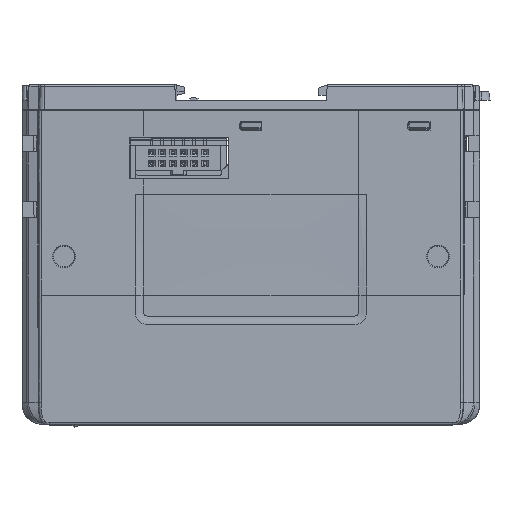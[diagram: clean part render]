
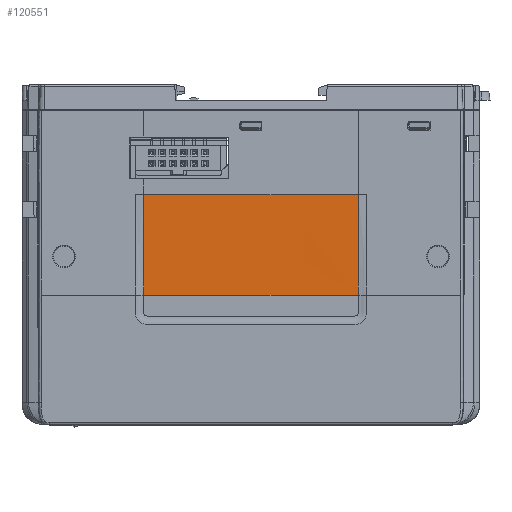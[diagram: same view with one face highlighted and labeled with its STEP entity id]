
A CAD part, top view. The second image highlights one B-rep face of the part: STEP entity #120551.
In plain terms, the highlighted free-form (B-spline) face has degree [3, 3] with [7, 4] control points.
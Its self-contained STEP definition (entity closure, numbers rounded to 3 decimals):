
#1477 = CARTESIAN_POINT ( 'NONE',  ( -25.537, -39.932, 13.2 ) ) ;
#1936 = EDGE_CURVE ( 'NONE', #51242, #108618, #122612, .T. ) ;
#5993 = CARTESIAN_POINT ( 'NONE',  ( -12.768, -35.945, 13.2 ) ) ;
#6639 = CARTESIAN_POINT ( 'NONE',  ( 21.28, -27.973, 13.5 ) ) ;
#10314 = EDGE_CURVE ( 'NONE', #51242, #16847, #111965, .T. ) ;
#11010 = B_SPLINE_CURVE_WITH_KNOTS ( 'NONE', 3,
 ( #32491, #73496, #114461, #22413 ),
 .UNSPECIFIED., .F., .F.,
 ( 4, 4 ),
 ( 0., 1. ),
 .UNSPECIFIED. ) ;
#16103 = CARTESIAN_POINT ( 'NONE',  ( -21.28, -27.973, 13.5 ) ) ;
#16753 = CARTESIAN_POINT ( 'NONE',  ( 12.768, -20., 13.5 ) ) ;
#16847 = VERTEX_POINT ( 'NONE', #70844 ) ;
#19955 = CARTESIAN_POINT ( 'NONE',  ( 0., -43.918, 13.2 ) ) ;
#21808 = ORIENTED_EDGE ( 'NONE', *, *, #10314, .T. ) ;
#22413 = CARTESIAN_POINT ( 'NONE',  ( 25.537, -20., 13.5 ) ) ;
#26168 = CARTESIAN_POINT ( 'NONE',  ( -25.537, -20., 13.5 ) ) ;
#26834 = CARTESIAN_POINT ( 'NONE',  ( 12.768, -43.918, 13.2 ) ) ;
#27693 = ORIENTED_EDGE ( 'NONE', *, *, #72353, .F. ) ;
#28306 = ORIENTED_EDGE ( 'NONE', *, *, #1936, .F. ) ;
#32491 = CARTESIAN_POINT ( 'NONE',  ( 25.537, -43.918, 13.2 ) ) ;
#36874 = CARTESIAN_POINT ( 'NONE',  ( 0., -35.945, 13.2 ) ) ;
#37545 = CARTESIAN_POINT ( 'NONE',  ( 25.537, -27.973, 13.5 ) ) ;
#39693 = LINE ( 'NONE', #80709, #104269 ) ;
#41626 = EDGE_LOOP ( 'NONE', ( #21808, #127358, #27693, #28306 ) ) ;
#42437 = CARTESIAN_POINT ( 'NONE',  ( -25.537, -31.959, 13.35 ) ) ;
#46964 = CARTESIAN_POINT ( 'NONE',  ( -12.768, -27.973, 13.5 ) ) ;
#47595 = CARTESIAN_POINT ( 'NONE',  ( 21.28, -20., 13.5 ) ) ;
#51242 = VERTEX_POINT ( 'NONE', #82532 ) ;
#55695 = FACE_OUTER_BOUND ( 'NONE', #41626, .T. ) ;
#57022 = CARTESIAN_POINT ( 'NONE',  ( -21.28, -20., 13.5 ) ) ;
#57689 = CARTESIAN_POINT ( 'NONE',  ( 21.28, -43.918, 13.2 ) ) ;
#58887 = EDGE_CURVE ( 'NONE', #16847, #103662, #11010, .T. ) ;
#60930 = DIRECTION ( 'NONE',  ( 1., 0., 0. ) ) ;
#62240 = CARTESIAN_POINT ( 'NONE',  ( -25.537, -20., 13.5 ) ) ;
#67101 = CARTESIAN_POINT ( 'NONE',  ( -21.28, -43.918, 13.2 ) ) ;
#67773 = CARTESIAN_POINT ( 'NONE',  ( 12.768, -35.945, 13.2 ) ) ;
#70844 = CARTESIAN_POINT ( 'NONE',  ( 25.537, -43.918, 13.2 ) ) ;
#72353 = EDGE_CURVE ( 'NONE', #108618, #103662, #39693, .T. ) ;
#73496 = CARTESIAN_POINT ( 'NONE',  ( 25.537, -35.945, 13.2 ) ) ;
#77244 = CARTESIAN_POINT ( 'NONE',  ( -25.537, -35.945, 13.2 ) ) ;
#77880 = CARTESIAN_POINT ( 'NONE',  ( 0., -27.973, 13.5 ) ) ;
#78539 = CARTESIAN_POINT ( 'NONE',  ( 25.537, -20., 13.5 ) ) ;
#80709 = CARTESIAN_POINT ( 'NONE',  ( -48., -20., 13.5 ) ) ;
#82532 = CARTESIAN_POINT ( 'NONE',  ( -25.537, -43.918, 13.2 ) ) ;
#83455 = CARTESIAN_POINT ( 'NONE',  ( -25.537, -23.987, 13.5 ) ) ;
#87968 = CARTESIAN_POINT ( 'NONE',  ( -12.768, -20., 13.5 ) ) ;
#88606 = CARTESIAN_POINT ( 'NONE',  ( 25.537, -43.918, 13.2 ) ) ;
#89403 = VECTOR ( 'NONE', #60930, 1000. ) ;
#93491 = CARTESIAN_POINT ( 'NONE',  ( -25.537, -43.918, 13.2 ) ) ;
#96694 = CARTESIAN_POINT ( 'NONE',  ( -25.537, -43.918, 13.2 ) ) ;
#98024 = CARTESIAN_POINT ( 'NONE',  ( -12.768, -43.918, 13.2 ) ) ;
#98318 = CARTESIAN_POINT ( 'NONE',  ( 25.537, -20., 13.5 ) ) ;
#98681 = CARTESIAN_POINT ( 'NONE',  ( 21.28, -35.945, 13.2 ) ) ;
#103662 = VERTEX_POINT ( 'NONE', #98318 ) ;
#104269 = VECTOR ( 'NONE', #121630, 1000. ) ;
#108110 = CARTESIAN_POINT ( 'NONE',  ( -21.28, -35.945, 13.2 ) ) ;
#108618 = VERTEX_POINT ( 'NONE', #62240 ) ;
#108745 = CARTESIAN_POINT ( 'NONE',  ( 12.768, -27.973, 13.5 ) ) ;
#111965 = LINE ( 'NONE', #19955, #89403 ) ;
#111979 = B_SPLINE_SURFACE_WITH_KNOTS ( 'NONE', 3, 3, ( 
 ( #96694, #77244, #118171, #26168 ),
 ( #67101, #108110, #16103, #57022 ),
 ( #98024, #5993, #46964, #87968 ),
 ( #128856, #36874, #77880, #118832 ),
 ( #26834, #67773, #108745, #16753 ),
 ( #57689, #98681, #6639, #47595 ),
 ( #88606, #129517, #37545, #78539 ) ),
 .UNSPECIFIED., .F., .F., .F.,
 ( 4, 1, 1, 1, 4 ),
 ( 4, 4 ),
 ( 0., 0.25, 0.5, 0.75, 1. ),
 ( 0., 1. ),
 .UNSPECIFIED. ) ;
#114461 = CARTESIAN_POINT ( 'NONE',  ( 25.537, -27.973, 13.5 ) ) ;
#118171 = CARTESIAN_POINT ( 'NONE',  ( -25.537, -27.973, 13.5 ) ) ;
#118832 = CARTESIAN_POINT ( 'NONE',  ( 0., -20., 13.5 ) ) ;
#120551 = ADVANCED_FACE ( 'NONE', ( #55695 ), #111979, .T. ) ;
#121630 = DIRECTION ( 'NONE',  ( 1., 0., 0. ) ) ;
#122612 = B_SPLINE_CURVE_WITH_KNOTS ( 'NONE', 3,
 ( #93491, #1477, #42437, #83455, #124356 ),
 .UNSPECIFIED., .F., .F.,
 ( 4, 1, 4 ),
 ( 0., 0.5, 1. ),
 .UNSPECIFIED. ) ;
#124356 = CARTESIAN_POINT ( 'NONE',  ( -25.537, -20., 13.5 ) ) ;
#127358 = ORIENTED_EDGE ( 'NONE', *, *, #58887, .T. ) ;
#128856 = CARTESIAN_POINT ( 'NONE',  ( 0., -43.918, 13.2 ) ) ;
#129517 = CARTESIAN_POINT ( 'NONE',  ( 25.537, -35.945, 13.2 ) ) ;
